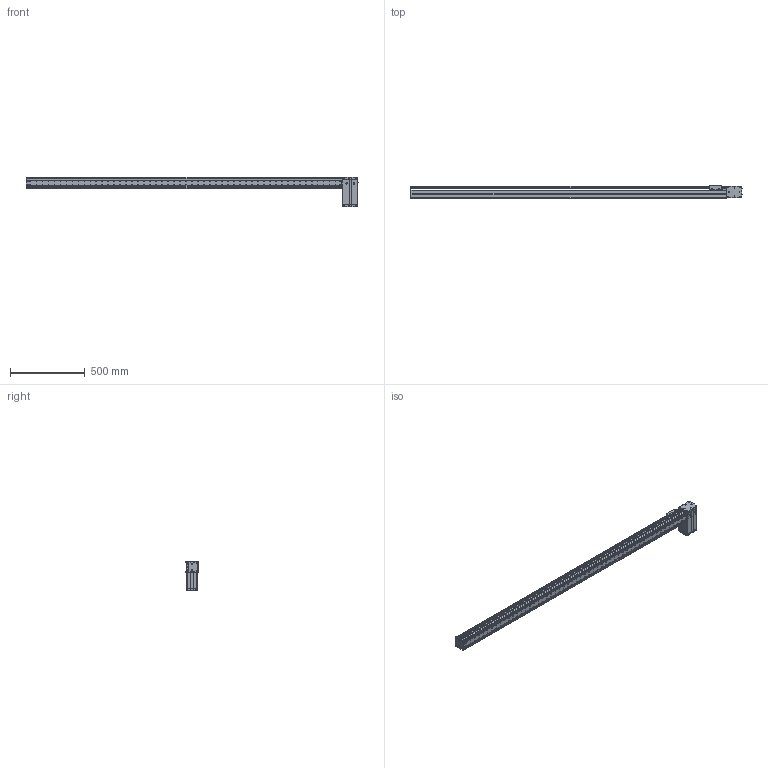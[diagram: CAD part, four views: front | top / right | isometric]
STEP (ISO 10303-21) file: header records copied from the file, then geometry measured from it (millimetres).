
FILE_DESCRIPTION((''),'2;1');
FILE_NAME('BE10_-BL-S_N-K5_IGS_PRT','2017-06-18T',(' '),(''),'PRO/ENGINEER BY PARAMETRIC TECHNOLOGY CORPORATION, 2015030','PRO/ENGINEER BY PARAMETRIC TECHNOLOGY CORPORATION, 2015030','');
FILE_SCHEMA(('CONFIG_CONTROL_DESIGN'));
Products named in the file (1): BE10_-BL-S_N-K5_IGS_PRT
Bounding box: 2220.8 x 85 x 200.22 mm (x, y, z)
Volume: 2828485.2 mm3; surface area: 2013457.2 mm2
Topology: 5 solids, 183 shells, 2341 faces, 6425 edges, 4287 vertices
Faces by surface type: cylinder 1107, plane 1075, cone 103, sphere 28, torus 25, bspline 3
Entity records: 76985 total; most frequent: CARTESIAN_POINT 15974, DIRECTION 12996, ORIENTED_EDGE 12050, EDGE_CURVE 6371, AXIS2_PLACEMENT_3D 4770, VERTEX_POINT 4287, VECTOR 3456, LINE 3456
